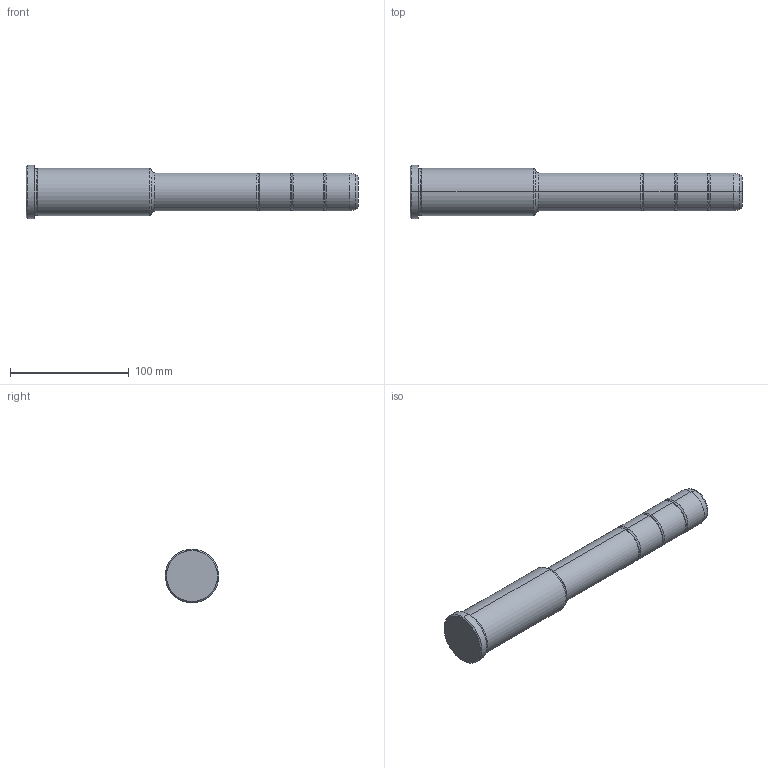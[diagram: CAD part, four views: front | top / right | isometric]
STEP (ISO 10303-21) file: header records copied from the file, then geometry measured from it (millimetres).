
FILE_DESCRIPTION(('CATIA V5 STEP Exchange'),'2;1');
FILE_NAME('C:\Users\Utente\Desktop\IO LAVORO\3D X SITO CF\X SITO\PLASTICA\351\351-32X106X280.stp','2021-09-15T11:44:40+00:00',('none'),('none'),'CATIA Version 5 Release 20 GA (IN-10)','CATIA V5 STEP AP203','none');
FILE_SCHEMA(('CONFIG_CONTROL_DESIGN'));
Length unit declared in the file: millimetre
Products named in the file (1): 351-32X106X280
Bounding box: 280 x 45 x 45 mm (x, y, z)
Volume: 274132 mm3; surface area: 33728.1 mm2
Topology: 1 solids, 1 shells, 42 faces, 118 edges, 80 vertices
Faces by surface type: torus 20, cylinder 12, cone 6, plane 4
Entity records: 1472 total; most frequent: CARTESIAN_POINT 353, ORIENTED_EDGE 236, DIRECTION 194, AXIS2_PLACEMENT_3D 135, EDGE_CURVE 118, CIRCLE 92, VERTEX_POINT 80, EDGE_LOOP 44
